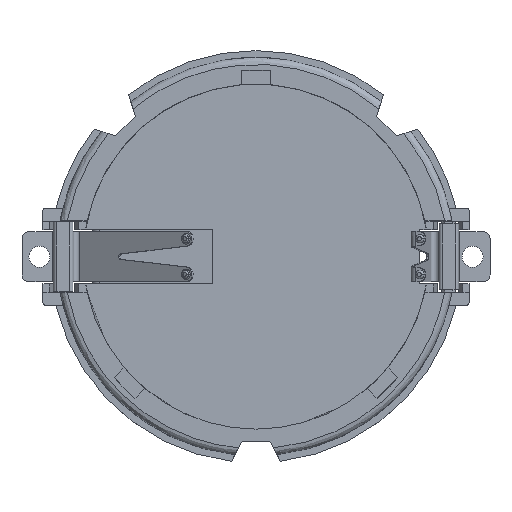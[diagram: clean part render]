
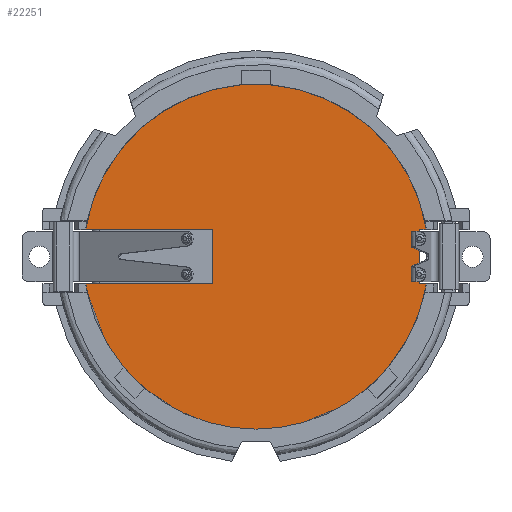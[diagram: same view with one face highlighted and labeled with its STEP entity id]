
A CAD part, top view. The second image highlights one B-rep face of the part: STEP entity #22251.
In plain terms, the highlighted planar face has unit normal (0, 0, 1).
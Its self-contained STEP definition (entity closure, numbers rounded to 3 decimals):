
#95 = VERTEX_POINT ( 'NONE', #12421 ) ;
#742 = EDGE_CURVE ( 'NONE', #12506, #4861, #6586, .T. ) ;
#1095 = EDGE_CURVE ( 'NONE', #4861, #6947, #19973, .T. ) ;
#1103 = VERTEX_POINT ( 'NONE', #18884 ) ;
#1199 = FACE_OUTER_BOUND ( 'NONE', #19018, .T. ) ;
#1983 = DIRECTION ( 'NONE',  ( 0., 0., 1. ) ) ;
#2258 = DIRECTION ( 'NONE',  ( 0., 0., 1. ) ) ;
#3481 = CARTESIAN_POINT ( 'NONE',  ( -3.1, 0., 0. ) ) ;
#4242 = CARTESIAN_POINT ( 'NONE',  ( -12.195, -1.95, 0. ) ) ;
#4607 = CARTESIAN_POINT ( 'NONE',  ( 11.7, -1.95, 0. ) ) ;
#4616 = VECTOR ( 'NONE', #15496, 1000. ) ;
#4744 = CARTESIAN_POINT ( 'NONE',  ( -3.1, 1.95, 0. ) ) ;
#4827 = AXIS2_PLACEMENT_3D ( 'NONE', #7649, #7369, #19501 ) ;
#4861 = VERTEX_POINT ( 'NONE', #18983 ) ;
#5173 = CARTESIAN_POINT ( 'NONE',  ( 0., -12.35, 0. ) ) ;
#5649 = LINE ( 'NONE', #13865, #17417 ) ;
#5664 = LINE ( 'NONE', #3481, #4616 ) ;
#5989 = AXIS2_PLACEMENT_3D ( 'NONE', #15499, #15912, #9336 ) ;
#6368 = EDGE_CURVE ( 'NONE', #22561, #22519, #26484, .T. ) ;
#6586 = CIRCLE ( 'NONE', #4827, 12.35 ) ;
#6947 = VERTEX_POINT ( 'NONE', #4607 ) ;
#7369 = DIRECTION ( 'NONE',  ( 0., 0., 1. ) ) ;
#7649 = CARTESIAN_POINT ( 'NONE',  ( 0., 0., 0. ) ) ;
#7907 = ORIENTED_EDGE ( 'NONE', *, *, #16860, .T. ) ;
#8351 = ORIENTED_EDGE ( 'NONE', *, *, #6368, .T. ) ;
#8939 = ORIENTED_EDGE ( 'NONE', *, *, #21145, .T. ) ;
#8980 = ORIENTED_EDGE ( 'NONE', *, *, #26795, .T. ) ;
#9190 = VECTOR ( 'NONE', #12520, 1000. ) ;
#9336 = DIRECTION ( 'NONE',  ( 0., -1., 0. ) ) ;
#9433 = EDGE_CURVE ( 'NONE', #95, #20838, #22354, .T. ) ;
#10138 = EDGE_CURVE ( 'NONE', #22519, #12506, #25379, .T. ) ;
#10812 = LINE ( 'NONE', #17041, #16506 ) ;
#10843 = CARTESIAN_POINT ( 'NONE',  ( -3.1, -1.95, 0. ) ) ;
#11173 = CARTESIAN_POINT ( 'NONE',  ( 11.7, 1.95, 0. ) ) ;
#11681 = VECTOR ( 'NONE', #26226, 1000. ) ;
#11764 = ORIENTED_EDGE ( 'NONE', *, *, #10138, .T. ) ;
#12127 = DIRECTION ( 'NONE',  ( 0., -1., 0. ) ) ;
#12354 = ORIENTED_EDGE ( 'NONE', *, *, #742, .T. ) ;
#12421 = CARTESIAN_POINT ( 'NONE',  ( -12.195, 1.95, 0. ) ) ;
#12506 = VERTEX_POINT ( 'NONE', #5173 ) ;
#12520 = DIRECTION ( 'NONE',  ( -1., 0., 0. ) ) ;
#13865 = CARTESIAN_POINT ( 'NONE',  ( 12.98, 1.95, 0. ) ) ;
#14676 = CARTESIAN_POINT ( 'NONE',  ( 12.98, -1.95, 0. ) ) ;
#15391 = AXIS2_PLACEMENT_3D ( 'NONE', #16598, #1983, #12127 ) ;
#15413 = ORIENTED_EDGE ( 'NONE', *, *, #9433, .T. ) ;
#15496 = DIRECTION ( 'NONE',  ( 0., -1., 0. ) ) ;
#15499 = CARTESIAN_POINT ( 'NONE',  ( 0., 0., 0. ) ) ;
#15912 = DIRECTION ( 'NONE',  ( 0., 0., 1. ) ) ;
#16506 = VECTOR ( 'NONE', #25332, 1000. ) ;
#16598 = CARTESIAN_POINT ( 'NONE',  ( 0., 0., 0. ) ) ;
#16860 = EDGE_CURVE ( 'NONE', #23163, #1103, #5649, .T. ) ;
#17041 = CARTESIAN_POINT ( 'NONE',  ( 11.7, -1.95, 0. ) ) ;
#17417 = VECTOR ( 'NONE', #26766, 1000. ) ;
#17922 = CARTESIAN_POINT ( 'NONE',  ( 0., -1.95, 0. ) ) ;
#17983 = CARTESIAN_POINT ( 'NONE',  ( 0., 1.95, 0. ) ) ;
#18629 = ORIENTED_EDGE ( 'NONE', *, *, #1095, .T. ) ;
#18852 = VECTOR ( 'NONE', #26293, 1000. ) ;
#18884 = CARTESIAN_POINT ( 'NONE',  ( 12.195, 1.95, 0. ) ) ;
#18983 = CARTESIAN_POINT ( 'NONE',  ( 12.195, -1.95, 0. ) ) ;
#19018 = EDGE_LOOP ( 'NONE', ( #7907, #20065, #15413, #8939, #8351, #11764, #12354, #18629, #8980 ) ) ;
#19501 = DIRECTION ( 'NONE',  ( 0., -1., 0. ) ) ;
#19973 = LINE ( 'NONE', #14676, #9190 ) ;
#20065 = ORIENTED_EDGE ( 'NONE', *, *, #21294, .T. ) ;
#20249 = CARTESIAN_POINT ( 'NONE',  ( 0., 0., 0. ) ) ;
#20524 = DIRECTION ( 'NONE',  ( 1., 0., 0. ) ) ;
#20838 = VERTEX_POINT ( 'NONE', #4744 ) ;
#21145 = EDGE_CURVE ( 'NONE', #20838, #22561, #5664, .T. ) ;
#21294 = EDGE_CURVE ( 'NONE', #1103, #95, #26708, .T. ) ;
#21781 = PLANE ( 'NONE',  #23201 ) ;
#22251 = ADVANCED_FACE ( 'NONE', ( #1199 ), #21781, .T. ) ;
#22354 = LINE ( 'NONE', #17983, #18852 ) ;
#22519 = VERTEX_POINT ( 'NONE', #4242 ) ;
#22561 = VERTEX_POINT ( 'NONE', #10843 ) ;
#23163 = VERTEX_POINT ( 'NONE', #11173 ) ;
#23201 = AXIS2_PLACEMENT_3D ( 'NONE', #20249, #2258, #20524 ) ;
#25332 = DIRECTION ( 'NONE',  ( 0., 1., 0. ) ) ;
#25379 = CIRCLE ( 'NONE', #5989, 12.35 ) ;
#26226 = DIRECTION ( 'NONE',  ( -1., 0., 0. ) ) ;
#26293 = DIRECTION ( 'NONE',  ( 1., 0., 0. ) ) ;
#26484 = LINE ( 'NONE', #17922, #11681 ) ;
#26708 = CIRCLE ( 'NONE', #15391, 12.35 ) ;
#26766 = DIRECTION ( 'NONE',  ( 1., 0., 0. ) ) ;
#26795 = EDGE_CURVE ( 'NONE', #6947, #23163, #10812, .T. ) ;
